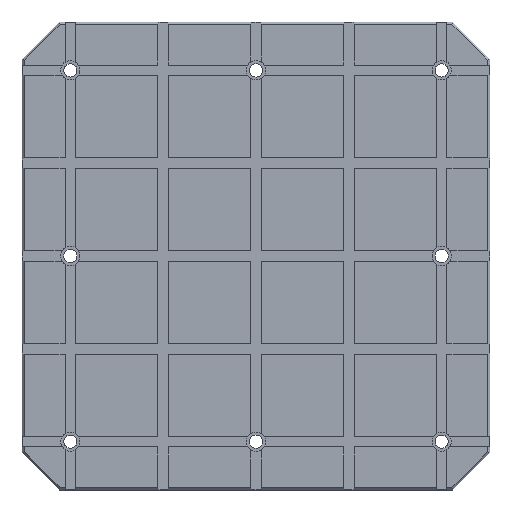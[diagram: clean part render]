
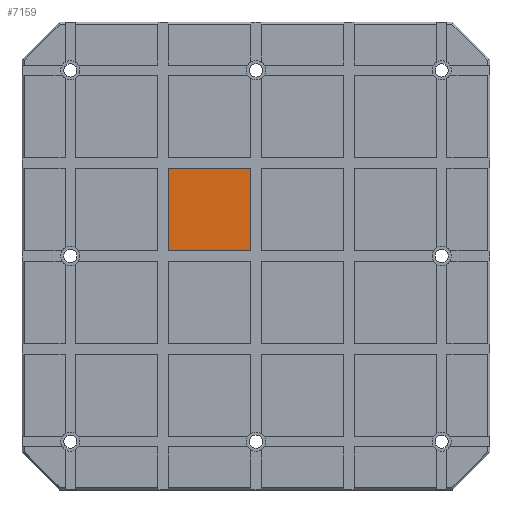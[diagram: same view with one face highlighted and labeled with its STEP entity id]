
A CAD part, top view. The second image highlights one B-rep face of the part: STEP entity #7159.
In plain terms, the highlighted planar face has unit normal (0, 0, 1).
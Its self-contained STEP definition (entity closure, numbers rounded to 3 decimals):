
#609=DIRECTION('',(0.,1.,0.));
#610=VECTOR('',#609,111.);
#611=CARTESIAN_POINT('',(-118.,7.,30.));
#612=LINE('',#611,#610);
#613=DIRECTION('',(1.,0.,0.));
#614=VECTOR('',#613,111.);
#615=CARTESIAN_POINT('',(-118.,118.,30.));
#616=LINE('',#615,#614);
#617=DIRECTION('',(0.,1.,0.));
#618=VECTOR('',#617,111.);
#619=CARTESIAN_POINT('',(-7.,7.,30.));
#620=LINE('',#619,#618);
#621=DIRECTION('',(1.,0.,0.));
#622=VECTOR('',#621,111.);
#623=CARTESIAN_POINT('',(-118.,7.,30.));
#624=LINE('',#623,#622);
#5281=CARTESIAN_POINT('',(-7.,7.,30.));
#5282=CARTESIAN_POINT('',(-7.,118.,30.));
#5283=VERTEX_POINT('',#5281);
#5284=VERTEX_POINT('',#5282);
#5429=CARTESIAN_POINT('',(-118.,7.,30.));
#5430=CARTESIAN_POINT('',(-118.,118.,30.));
#5431=VERTEX_POINT('',#5429);
#5432=VERTEX_POINT('',#5430);
#7144=CARTESIAN_POINT('',(0.,0.,30.));
#7145=DIRECTION('',(0.,0.,1.));
#7146=DIRECTION('',(1.,0.,0.));
#7147=AXIS2_PLACEMENT_3D('',#7144,#7145,#7146);
#7148=PLANE('',#7147);
#7150=ORIENTED_EDGE('',*,*,#7149,.T.);
#7152=ORIENTED_EDGE('',*,*,#7151,.T.);
#7154=ORIENTED_EDGE('',*,*,#7153,.F.);
#7156=ORIENTED_EDGE('',*,*,#7155,.F.);
#7157=EDGE_LOOP('',(#7150,#7152,#7154,#7156));
#7158=FACE_OUTER_BOUND('',#7157,.F.);
#7159=ADVANCED_FACE('',(#7158),#7148,.T.);
#7149=EDGE_CURVE('',#5431,#5432,#612,.T.);
#7151=EDGE_CURVE('',#5432,#5284,#616,.T.);
#7153=EDGE_CURVE('',#5283,#5284,#620,.T.);
#7155=EDGE_CURVE('',#5431,#5283,#624,.T.);
